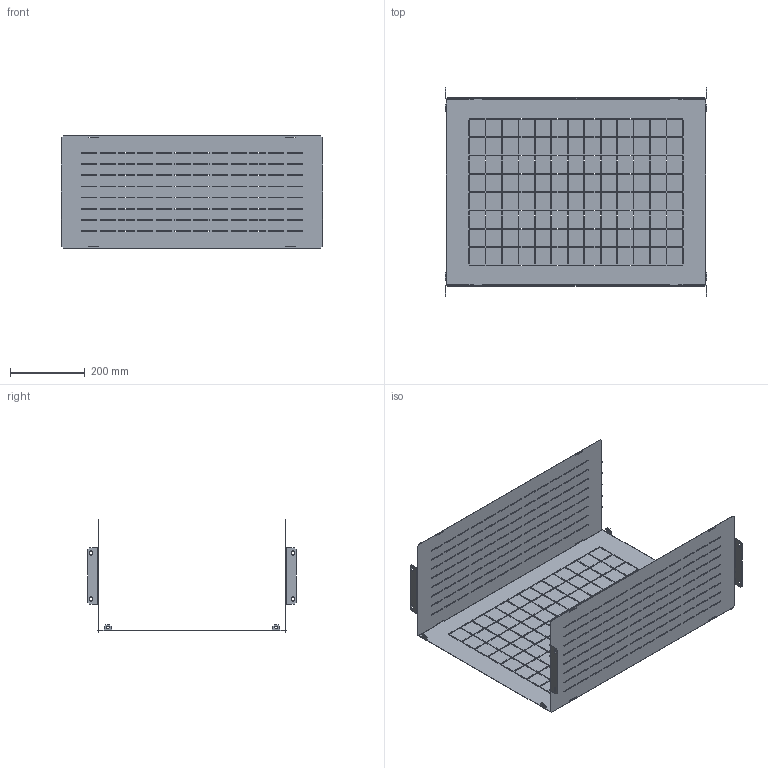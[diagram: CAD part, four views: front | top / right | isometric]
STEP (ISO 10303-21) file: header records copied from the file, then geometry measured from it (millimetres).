
FILE_DESCRIPTION (( 'STEP AP203' ), '1' );
FILE_NAME ('MA1.800.080603.01.00 Ïåðåãîðîäêè äëÿ ñáîðêè ãîðèçîíòàëüíûõ øèí Ø800 Ã600 EKF AleSta AleSta-PCHB86.STEP', '2024-12-02T13:52:15', ( '' ), ( '' ), 'SwSTEP 2.0', 'SolidWorks 2021', '' );
FILE_SCHEMA (( 'CONFIG_CONTROL_DESIGN' ));
Length unit declared in the file: millimetre
Products named in the file (3): MA1.800.080603.01.00 Ïåðåãîðîäêè äëÿ ñáîðêè ãîðèçîíòàëüíûõ øèí Ø800 Ã600 EKF AleSta AleSta-PCHB86; MA1.800.060603.01.02 ôðîíòàëüíàÿ ÷àñòü_˜=800; MA1.800.060603.01.01 ãîðèçîíòàëüíàÿ ÷àñòü_ƒ = 600
Assembly tree (3 placements, depth 2):
  MA1.800.080603.01.00 Ïåðåãîðîäêè äëÿ ñáîðêè ãîðèçîíòàëüíûõ øèí Ø800 Ã600 EKF AleSta AleSta-PCHB86
    MA1.800.060603.01.01 ãîðèçîíòàëüíàÿ ÷àñòü_ƒ = 600
    MA1.800.060603.01.02 ôðîíòàëüíàÿ ÷àñòü_˜=800  x2
Bounding box: 699 x 556.01 x 300 mm (x, y, z)
Volume: 742818.9 mm3; surface area: 1530633.5 mm2
Topology: 3 solids, 3 shells, 1990 faces, 5888 edges, 3904 vertices
Faces by surface type: plane 1950, cylinder 40
Entity records: 51081 total; most frequent: CARTESIAN_POINT 8938, ORIENTED_EDGE 8928, DIRECTION 7596, EDGE_CURVE 4464, LINE 4360, VECTOR 4360, VERTEX_POINT 2960, EDGE_LOOP 2206
